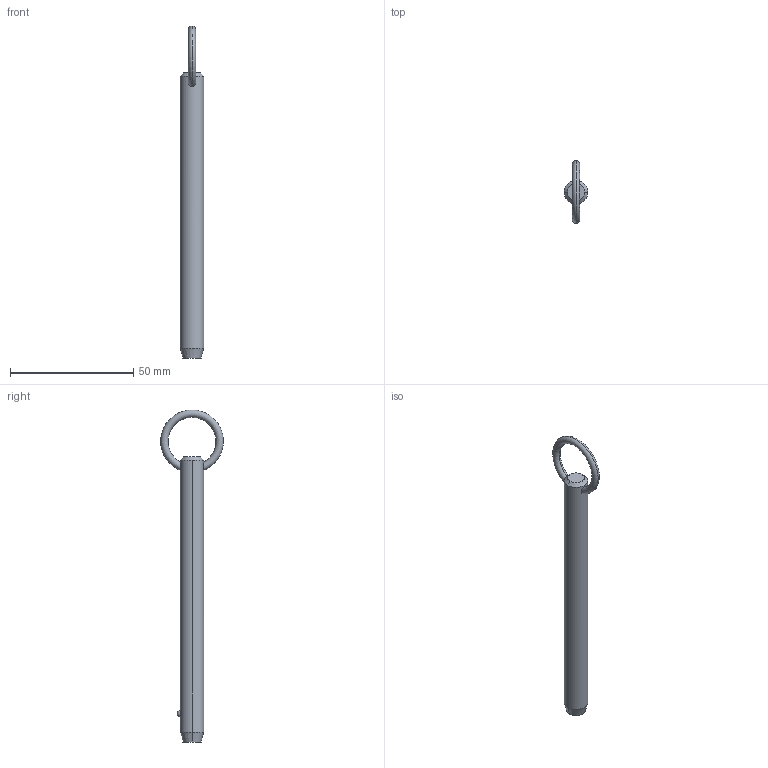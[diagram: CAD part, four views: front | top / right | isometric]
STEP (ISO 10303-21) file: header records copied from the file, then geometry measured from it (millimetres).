
FILE_DESCRIPTION (( 'STEP AP203' ), '1' );
FILE_NAME ('P1250.037-380.step', '2019-07-29T20:06:32', ( '' ), ( '' ), 'SwSTEP 2.0', 'SolidWorks 2017', '' );
FILE_SCHEMA (( 'CONFIG_CONTROL_DESIGN' ));
Length unit declared in the file: millimetre
Products named in the file (1): P1250.037-380
Bounding box: 9.52 x 25.39 x 134.6 mm (x, y, z)
Volume: 8576.1 mm3; surface area: 4098.1 mm2
Topology: 1 solids, 1 shells, 12 faces, 28 edges, 17 vertices
Faces by surface type: cone 4, torus 2, sphere 2, cylinder 2, plane 2
Entity records: 523 total; most frequent: CARTESIAN_POINT 190, DIRECTION 56, ORIENTED_EDGE 48, AXIS2_PLACEMENT_3D 25, EDGE_CURVE 24, VERTEX_POINT 15, EDGE_LOOP 15, ADVANCED_FACE 12
